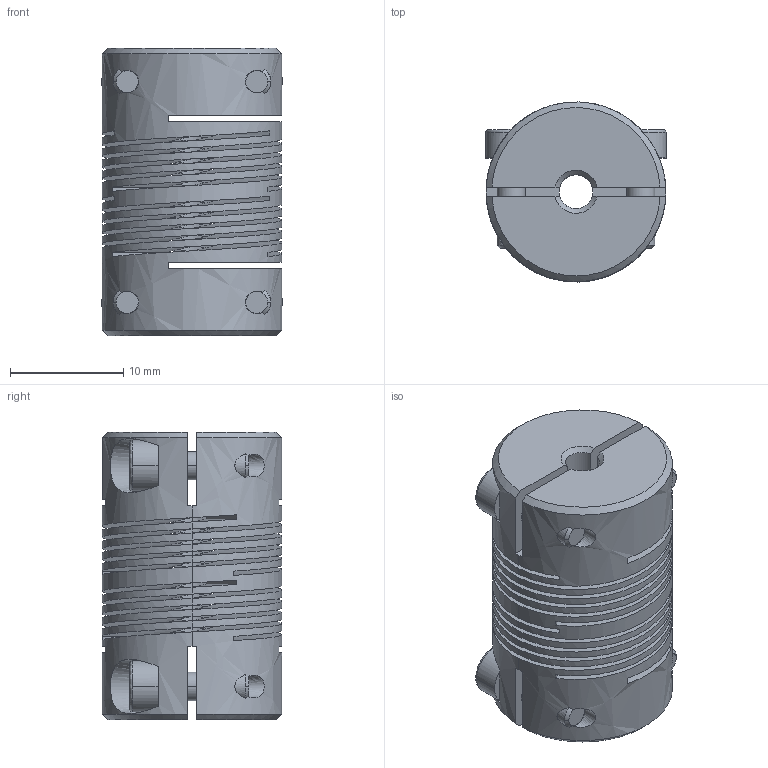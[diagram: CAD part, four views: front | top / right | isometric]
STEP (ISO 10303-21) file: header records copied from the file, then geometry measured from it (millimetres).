
FILE_DESCRIPTION((''),'2;1');
FILE_NAME('723_16','2026-02-24T',('SYSTEM'),(''),'PRO/ENGINEER BY PARAMETRIC TECHNOLOGY CORPORATION, 2016360','PRO/ENGINEER BY PARAMETRIC TECHNOLOGY CORPORATION, 2016360','');
FILE_SCHEMA(('AUTOMOTIVE_DESIGN { 1 0 10303 214 1 1 1 1 }'));
Length unit declared in the file: inch
Products named in the file (1): 723_16
Bounding box: 15.95 x 15.87 x 25.4 mm (x, y, z)
Volume: 3664.9 mm3; surface area: 6493.2 mm2
Topology: 1 solids, 1 shells, 208 faces, 616 edges, 408 vertices
Faces by surface type: bspline 208
Entity records: 16266 total; most frequent: CARTESIAN_POINT 10696, ORIENTED_EDGE 1216, EDGE_CURVE 608, B_SPLINE_CURVE_WITH_KNOTS 448, VERTEX_POINT 408, EDGE_LOOP 236, FACE_OUTER_BOUND 208, FILL_AREA_STYLE_COLOUR 208
